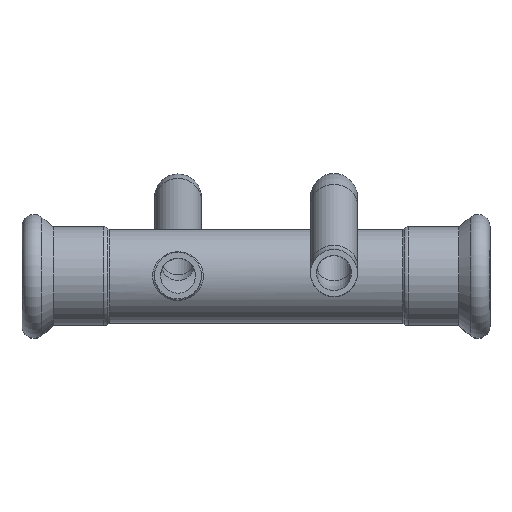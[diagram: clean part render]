
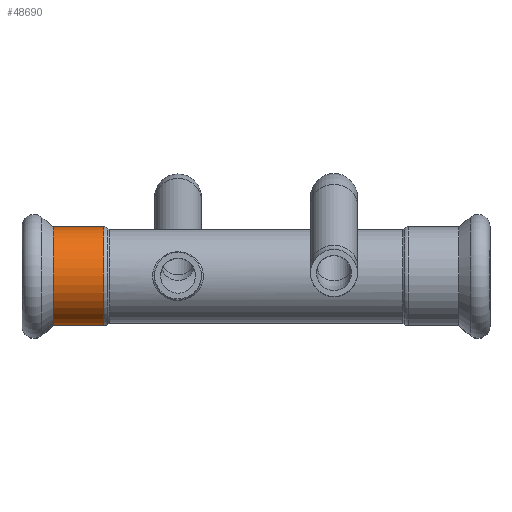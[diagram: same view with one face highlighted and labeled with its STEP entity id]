
A CAD part, top view. The second image highlights one B-rep face of the part: STEP entity #48690.
In plain terms, the highlighted cylindrical face has radius 12.65 mm (diameter 25.3 mm), a partial arc.
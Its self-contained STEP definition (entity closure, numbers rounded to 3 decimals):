
#8980=CARTESIAN_POINT('',(-77.003,133.061,
0.));
#8990=VERTEX_POINT('',#8980);
#9070=CARTESIAN_POINT('',(-77.003,158.361,0.));
#9080=VERTEX_POINT('',#9070);
#9110=CARTESIAN_POINT('',(-77.003,145.711,0.));
#9120=DIRECTION('',(1.,0.,0.));
#9130=DIRECTION('',(-0.,-1.,-0.));
#9140=AXIS2_PLACEMENT_3D('',#9110,#9120,#9130);
#9150=CIRCLE('',#9140,12.65);
#9210=CARTESIAN_POINT('',(-70.524,145.711,0.));
#9220=DIRECTION('',(1.,0.,0.));
#9230=DIRECTION('',(-0.,-1.,-0.));
#9240=AXIS2_PLACEMENT_3D('',#9210,#9220,#9230);
#9250=CYLINDRICAL_SURFACE('',#9240,12.65);
#9260=CARTESIAN_POINT('',(-70.524,133.061,0.));
#9270=DIRECTION('',(1.,0.,0.));
#9280=VECTOR('',#9270,1.);
#9290=LINE('',#9260,#9280);
#9300=CARTESIAN_POINT('',(-64.045,133.061,0.));
#9310=VERTEX_POINT('',#9300);
#9320=EDGE_CURVE('',#8990,#9310,#9290,.T.);
#9350=CARTESIAN_POINT('',(-70.524,158.361,
0.));
#9360=DIRECTION('',(1.,0.,0.));
#9370=VECTOR('',#9360,1.);
#9380=LINE('',#9350,#9370);
#9390=CARTESIAN_POINT('',(-64.045,158.361,0.));
#9400=VERTEX_POINT('',#9390);
#9410=EDGE_CURVE('',#9080,#9400,#9380,.T.);
#9430=CARTESIAN_POINT('',(-64.045,145.711,0.));
#9440=DIRECTION('',(1.,0.,0.));
#9450=DIRECTION('',(-0.,-1.,-0.));
#9460=AXIS2_PLACEMENT_3D('',#9430,#9440,#9450);
#9470=CIRCLE('',#9460,12.65);
#48610=EDGE_CURVE('',#9310,#9400,#9470,.T.);
#48620=ORIENTED_EDGE('',*,*,#48610,.F.);
#48630=ORIENTED_EDGE('',*,*,#9410,.T.);
#48640=EDGE_CURVE('',#8990,#9080,#9150,.T.);
#48650=ORIENTED_EDGE('',*,*,#48640,.T.);
#48660=ORIENTED_EDGE('',*,*,#9320,.F.);
#48670=EDGE_LOOP('',(#48660,#48650,#48630,#48620));
#48680=FACE_OUTER_BOUND('',#48670,.T.);
#48690=ADVANCED_FACE('',(#48680),#9250,.T.);
